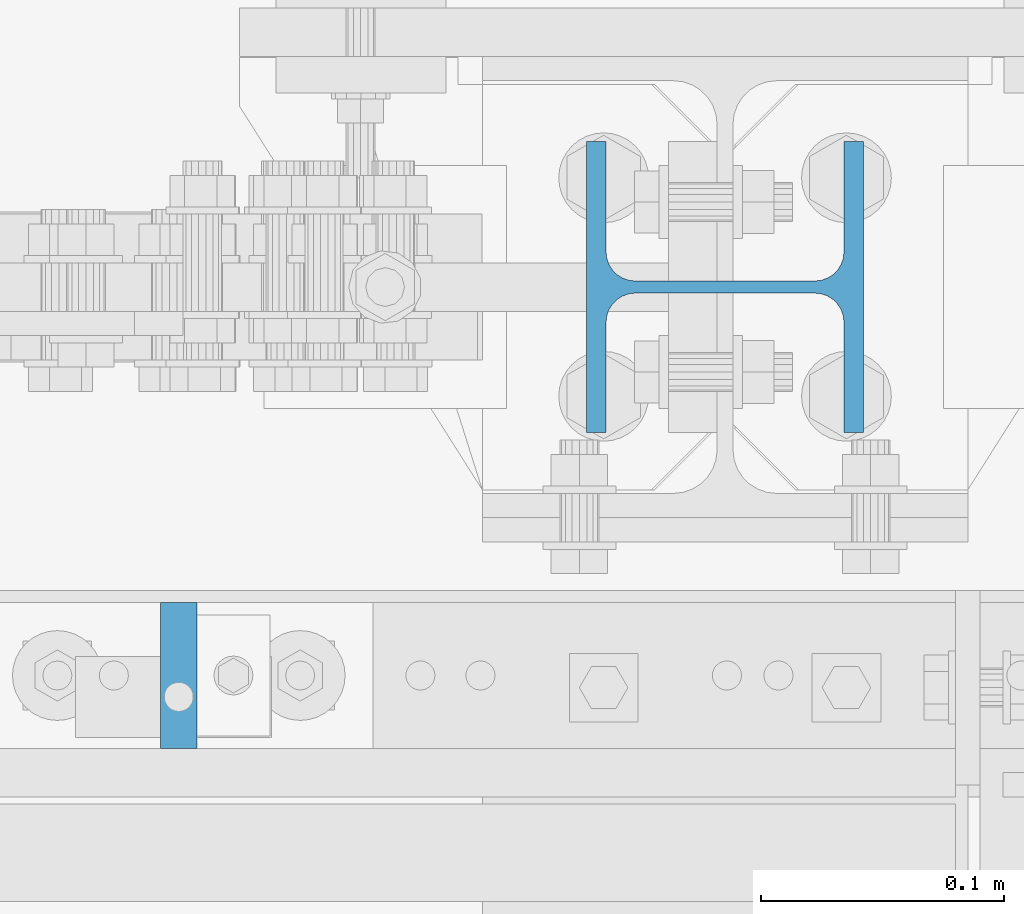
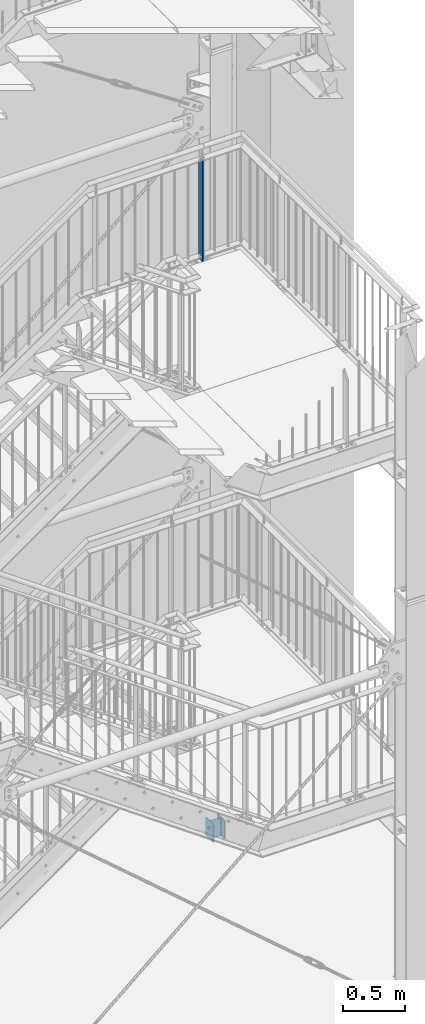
# One storey, part 112 of 831: 2 columns, 2 openings.
"""IFC2X3 building model written with IfcOpenShell, lengths in millimetres."""

from ifc_helpers import new_model, entity, si_unit, converted_unit, frame, origin, origin_with_axes, origin_2d, origin_2d_with_axis, place, context, project, spatial, rectangle, circle, i_section, extrude, clip, halfspace, material, element, save


model = new_model("IFC2X3")

# Units and contexts
model_context = context("Model", 3, precision=1e-09, world=origin_with_axes())
ifc_project = project(units=[si_unit("LENGTHUNIT", "METRE", prefix="MILLI"), si_unit("AREAUNIT", "SQUARE_METRE"), si_unit("VOLUMEUNIT", "CUBIC_METRE"), converted_unit("PLANEANGLEUNIT", "DEGREE", entity("IfcPlaneAngleMeasure", 0.01745329), si_unit("PLANEANGLEUNIT", "RADIAN"), dimensions=[0, 0, 0, 0, 0, 0, 0])], contexts=[model_context])

# Site, building, storey
site_placement = place(None, origin_with_axes())
site = spatial("IfcSite", under=ifc_project, at=site_placement, Name="Site", CompositionType="ELEMENT")
building_placement = place(site_placement, origin_with_axes())
building = spatial("IfcBuilding", under=site, at=building_placement, Name="Struktur 1", CompositionType="ELEMENT")
storey_placement = place(building_placement, origin_with_axes())
storey = spatial("IfcBuildingStorey", under=building, at=storey_placement, Name="Default Storey", CompositionType="ELEMENT", Elevation=0.0)

# Column
ifc_material = material(Name="S235JR")
column_1_placement = place(None, frame((8641.713974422, 7356.736971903, 6714.618028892), z_axis=(0.0, 0.0, 1.0), x_axis=(1.0, 0.0, 0.0)))
element("IfcColumn", 1, at=column_1_placement, inside=storey, material=ifc_material, Name="Railing_Post_Landing#4", ObjectType="Railing_Post_Landing#4", context=model_context, shape_type="Clipping", body=[
    clip(clip(extrude(rectangle(XDim=15.0, YDim=60.0, at=origin_2d()), origin(), (0.0, 0.0, -1.0), 1070.646584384), halfspace(frame((-8641.713974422, -7356.736971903, -1019.722292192), z_axis=(0.0, 0.0, 1.0), x_axis=(1.0, 0.0, 0.0)), True)), halfspace(frame((-8641.713974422, -7356.736971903, -30.924292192), z_axis=(0.0, 0.0, -1.0), x_axis=(-1.0, 0.0, 0.0)), True)),
])

# Column, openings
column_2_placement = place(None, frame((8866.713402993, 7516.736971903, 30.0), z_axis=(0.0, 0.0, 1.0), x_axis=(0.0, 1.0, 0.0)))
column_2 = element("IfcColumn", 2, at=column_2_placement, inside=storey, material=ifc_material, Name="-", ObjectType="-", context=model_context, shape_type="SweptSolid", body=[
    extrude(i_section(OverallWidth=120.0, OverallDepth=114.0, WebThickness=5.0, FlangeThickness=8.0, FilletRadius=12.0, at=origin_2d()), origin(), (0.0, 0.0, -1.0), 180.0),
])
opening_1_placement = place(column_2_placement, frame((-3.0, 30.0, -12.0), z_axis=(1.0, 0.0, 0.0), x_axis=(0.0, 0.0, -1.0)))
element("IfcOpeningElement", 3, at=opening_1_placement, cuts=column_2, ObjectType="Opening", context=model_context, shape_type="SweptSolid", body=[
    extrude(circle(Radius=6.001, at=origin_2d_with_axis()), origin(), (0.0, 0.0, 1.0), 6.0),
])
opening_2_placement = place(column_2_placement, frame((-3.0, -30.0, -12.0), z_axis=(1.0, 0.0, 0.0), x_axis=(0.0, 0.0, -1.0)))
element("IfcOpeningElement", 4, at=opening_2_placement, cuts=column_2, ObjectType="Opening", context=model_context, shape_type="SweptSolid", body=[
    extrude(circle(Radius=6.001, at=origin_2d_with_axis()), origin(), (0.0, 0.0, 1.0), 6.0),
])

save(model, "model.ifc")
